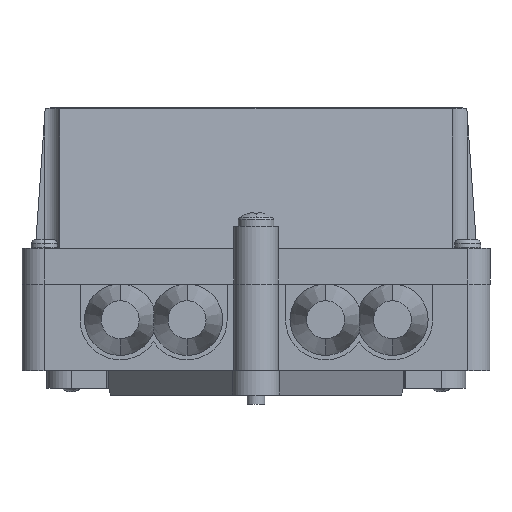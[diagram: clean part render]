
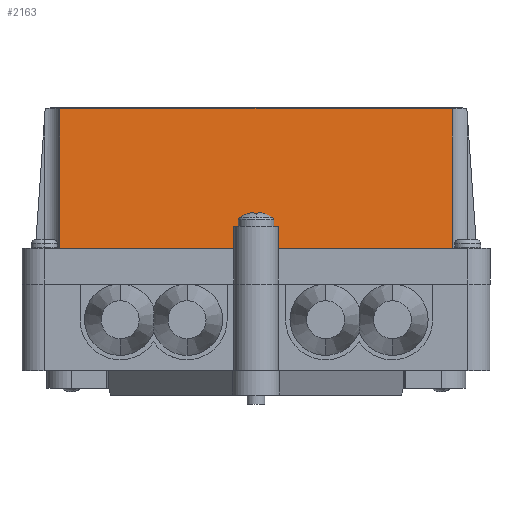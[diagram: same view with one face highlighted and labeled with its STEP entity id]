
A CAD part, front view. The second image highlights one B-rep face of the part: STEP entity #2163.
In plain terms, the highlighted planar face has unit normal (0, -0.998, 0.07).
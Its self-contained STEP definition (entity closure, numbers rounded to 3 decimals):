
#38 = LINE ( 'NONE', #45543, #48203 ) ;
#439 = CARTESIAN_POINT ( 'NONE',  ( 44.835, -21.762, 31.5 ) ) ;
#461 = EDGE_CURVE ( 'NONE', #31475, #59606, #7203, .T. ) ;
#621 = DIRECTION ( 'NONE',  ( -1., 0., 0. ) ) ;
#671 = EDGE_CURVE ( 'NONE', #32085, #52203, #29002, .T. ) ;
#821 = CARTESIAN_POINT ( 'NONE',  ( 48.329, -23.615, 5. ) ) ;
#1022 = CARTESIAN_POINT ( 'NONE',  ( -48.671, -23.964, 0. ) ) ;
#2163 = ADVANCED_FACE ( 'NONE', ( #32254 ), #28928, .T. ) ;
#2828 = ORIENTED_EDGE ( 'NONE', *, *, #15210, .F. ) ;
#3427 = CARTESIAN_POINT ( 'NONE',  ( 5.829, -23.615, 5. ) ) ;
#5344 = DIRECTION ( 'NONE',  ( 1., 0., 0. ) ) ;
#5697 = DIRECTION ( 'NONE',  ( 0., -0.998, 0.07 ) ) ;
#7133 = EDGE_LOOP ( 'NONE', ( #27164, #30984, #27150, #18741, #39539, #37879, #60471, #52383, #2828, #18854 ) ) ;
#7203 = LINE ( 'NONE', #58053, #55329 ) ;
#7812 = VERTEX_POINT ( 'NONE', #48436 ) ;
#8218 = DIRECTION ( 'NONE',  ( 0., -0.07, -0.998 ) ) ;
#8613 = VERTEX_POINT ( 'NONE', #55223 ) ;
#9758 = CARTESIAN_POINT ( 'NONE',  ( -43.171, -23.964, 0. ) ) ;
#10904 = CARTESIAN_POINT ( 'NONE',  ( -4.171, -23.615, 5. ) ) ;
#11130 = VECTOR ( 'NONE', #24359, 1000. ) ;
#11483 = DIRECTION ( 'NONE',  ( 0., -0.07, -0.998 ) ) ;
#12557 = CARTESIAN_POINT ( 'NONE',  ( 44.829, -23.964, 0. ) ) ;
#15210 = EDGE_CURVE ( 'NONE', #52203, #8613, #40801, .T. ) ;
#15842 = EDGE_CURVE ( 'NONE', #59606, #40634, #38955, .T. ) ;
#17014 = CARTESIAN_POINT ( 'NONE',  ( -43.171, -21.897, 29.568 ) ) ;
#17948 = DIRECTION ( 'NONE',  ( 1., 0., 0. ) ) ;
#18002 = LINE ( 'NONE', #9758, #41370 ) ;
#18271 = EDGE_CURVE ( 'NONE', #59285, #31223, #18002, .T. ) ;
#18292 = DIRECTION ( 'NONE',  ( 1., 0., 0. ) ) ;
#18323 = EDGE_CURVE ( 'NONE', #31475, #59069, #24595, .T. ) ;
#18741 = ORIENTED_EDGE ( 'NONE', *, *, #36149, .F. ) ;
#18854 = ORIENTED_EDGE ( 'NONE', *, *, #671, .F. ) ;
#19176 = DIRECTION ( 'NONE',  ( 0., 0.07, 0.998 ) ) ;
#19219 = CARTESIAN_POINT ( 'NONE',  ( 44.835, -21.762, 31.5 ) ) ;
#23177 = CARTESIAN_POINT ( 'NONE',  ( 0., -21.762, 31.5 ) ) ;
#24359 = DIRECTION ( 'NONE',  ( 0., -0.07, -0.998 ) ) ;
#24473 = CARTESIAN_POINT ( 'NONE',  ( -43.171, -21.964, 28.601 ) ) ;
#24595 = LINE ( 'NONE', #821, #36926 ) ;
#26561 = VECTOR ( 'NONE', #17948, 1000. ) ;
#27150 = ORIENTED_EDGE ( 'NONE', *, *, #38437, .T. ) ;
#27164 = ORIENTED_EDGE ( 'NONE', *, *, #45523, .F. ) ;
#28584 = CARTESIAN_POINT ( 'NONE',  ( 44.829, -21.964, 28.601 ) ) ;
#28748 = CARTESIAN_POINT ( 'NONE',  ( 5.829, -23.964, 0. ) ) ;
#28928 = PLANE ( 'NONE',  #44633 ) ;
#29002 = LINE ( 'NONE', #23177, #52368 ) ;
#30024 =( BOUNDED_CURVE ( )  B_SPLINE_CURVE ( 3, ( #54306, #17014, #59042, #31041 ),
 .UNSPECIFIED., .F., .F. ) 
 B_SPLINE_CURVE_WITH_KNOTS ( ( 4, 4 ),
 ( 1.571, 1.629 ),
 .UNSPECIFIED. ) 
 CURVE ( )  GEOMETRIC_REPRESENTATION_ITEM ( )  RATIONAL_B_SPLINE_CURVE ( ( 1., 1., 1., 1. ) ) 
 REPRESENTATION_ITEM ( '' )  );
#30984 = ORIENTED_EDGE ( 'NONE', *, *, #18271, .F. ) ;
#31041 = CARTESIAN_POINT ( 'NONE',  ( -43.177, -21.762, 31.5 ) ) ;
#31223 = VERTEX_POINT ( 'NONE', #24473 ) ;
#31475 = VERTEX_POINT ( 'NONE', #3427 ) ;
#31973 = CARTESIAN_POINT ( 'NONE',  ( -48.671, -23.964, 0. ) ) ;
#32085 = VERTEX_POINT ( 'NONE', #41299 ) ;
#32254 = FACE_OUTER_BOUND ( 'NONE', #7133, .T. ) ;
#36149 = EDGE_CURVE ( 'NONE', #59069, #7812, #59347, .T. ) ;
#36926 = VECTOR ( 'NONE', #621, 1000. ) ;
#37879 = ORIENTED_EDGE ( 'NONE', *, *, #461, .T. ) ;
#38153 = CARTESIAN_POINT ( 'NONE',  ( -48.671, -23.964, 0. ) ) ;
#38324 = DIRECTION ( 'NONE',  ( 0., -0.07, -0.998 ) ) ;
#38437 = EDGE_CURVE ( 'NONE', #59285, #7812, #50091, .T. ) ;
#38955 = LINE ( 'NONE', #31973, #26561 ) ;
#39539 = ORIENTED_EDGE ( 'NONE', *, *, #18323, .F. ) ;
#40634 = VERTEX_POINT ( 'NONE', #12557 ) ;
#40801 =( BOUNDED_CURVE ( )  B_SPLINE_CURVE ( 3, ( #19219, #51835, #56537, #28584 ),
 .UNSPECIFIED., .F., .F. ) 
 B_SPLINE_CURVE_WITH_KNOTS ( ( 4, 4 ),
 ( 4.654, 4.712 ),
 .UNSPECIFIED. ) 
 CURVE ( )  GEOMETRIC_REPRESENTATION_ITEM ( )  RATIONAL_B_SPLINE_CURVE ( ( 1., 1., 1., 1. ) ) 
 REPRESENTATION_ITEM ( '' )  );
#41299 = CARTESIAN_POINT ( 'NONE',  ( -43.177, -21.762, 31.5 ) ) ;
#41370 = VECTOR ( 'NONE', #19176, 1000. ) ;
#42929 = CARTESIAN_POINT ( 'NONE',  ( -4.171, -23.964, 0. ) ) ;
#44633 = AXIS2_PLACEMENT_3D ( 'NONE', #1022, #5697, #38324 ) ;
#45523 = EDGE_CURVE ( 'NONE', #31223, #32085, #30024, .T. ) ;
#45543 = CARTESIAN_POINT ( 'NONE',  ( 44.829, -23.964, 0. ) ) ;
#45595 = EDGE_CURVE ( 'NONE', #8613, #40634, #38, .T. ) ;
#48203 = VECTOR ( 'NONE', #8218, 1000. ) ;
#48436 = CARTESIAN_POINT ( 'NONE',  ( -4.171, -23.964, 0. ) ) ;
#48639 = VECTOR ( 'NONE', #5344, 1000. ) ;
#50091 = LINE ( 'NONE', #38153, #48639 ) ;
#51835 = CARTESIAN_POINT ( 'NONE',  ( 44.831, -21.829, 30.535 ) ) ;
#52203 = VERTEX_POINT ( 'NONE', #439 ) ;
#52368 = VECTOR ( 'NONE', #18292, 1000. ) ;
#52383 = ORIENTED_EDGE ( 'NONE', *, *, #45595, .F. ) ;
#54306 = CARTESIAN_POINT ( 'NONE',  ( -43.171, -21.964, 28.601 ) ) ;
#54521 = CARTESIAN_POINT ( 'NONE',  ( -43.171, -23.964, 0. ) ) ;
#55223 = CARTESIAN_POINT ( 'NONE',  ( 44.829, -21.964, 28.601 ) ) ;
#55329 = VECTOR ( 'NONE', #11483, 1000. ) ;
#56537 = CARTESIAN_POINT ( 'NONE',  ( 44.829, -21.897, 29.568 ) ) ;
#58053 = CARTESIAN_POINT ( 'NONE',  ( 5.829, -24.555, -8.448 ) ) ;
#59042 = CARTESIAN_POINT ( 'NONE',  ( -43.173, -21.829, 30.535 ) ) ;
#59069 = VERTEX_POINT ( 'NONE', #10904 ) ;
#59285 = VERTEX_POINT ( 'NONE', #54521 ) ;
#59347 = LINE ( 'NONE', #42929, #11130 ) ;
#59606 = VERTEX_POINT ( 'NONE', #28748 ) ;
#60471 = ORIENTED_EDGE ( 'NONE', *, *, #15842, .T. ) ;
